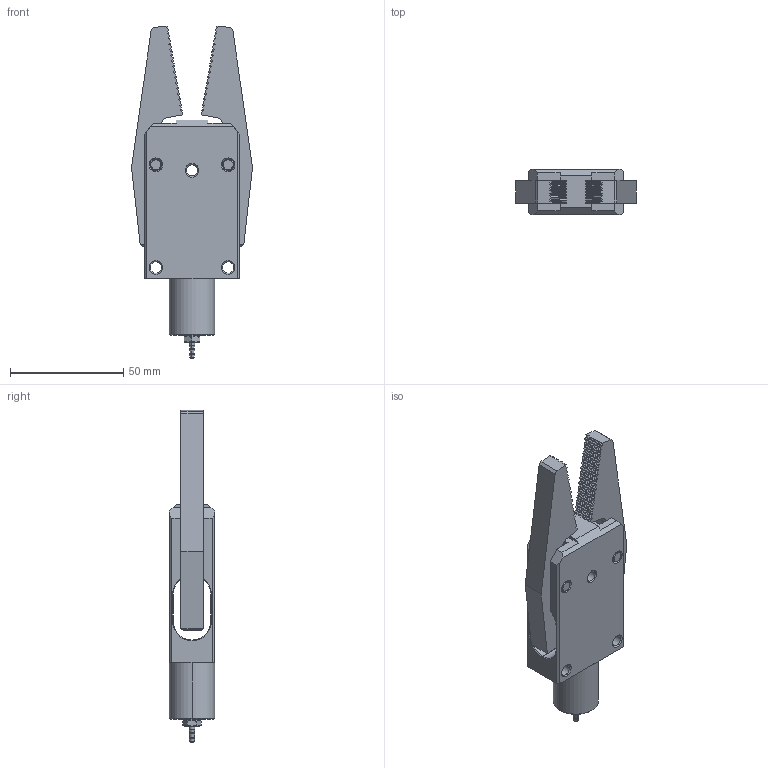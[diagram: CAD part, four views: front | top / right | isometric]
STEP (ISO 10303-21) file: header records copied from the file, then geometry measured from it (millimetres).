
FILE_DESCRIPTION (( 'STEP AP214' ), '1' );
FILE_NAME ('GRX20.STEP', '2019-11-12T03:22:00', ( '微软用户' ), ( '微软中国' ), 'SwSTEP 2.0', 'SolidWorks 2016', '' );
FILE_SCHEMA (( 'AUTOMOTIVE_DESIGN' ));
Length unit declared in the file: millimetre
Products named in the file (1): GRX20
Bounding box: 53.49 x 20 x 146.85 mm (x, y, z)
Volume: 60848.5 mm3; surface area: 26567 mm2
Topology: 6 solids, 6 shells, 1667 faces, 3613 edges, 1961 vertices
Faces by surface type: plane 1273, bspline 288, cylinder 53, cone 51, torus 2
Entity records: 64764 total; most frequent: CARTESIAN_POINT 11754, ORIENTED_EDGE 7226, DIRECTION 6490, EDGE_CURVE 3613, LINE 3400, VECTOR 3400, VERTEX_POINT 1961, EDGE_LOOP 1694
